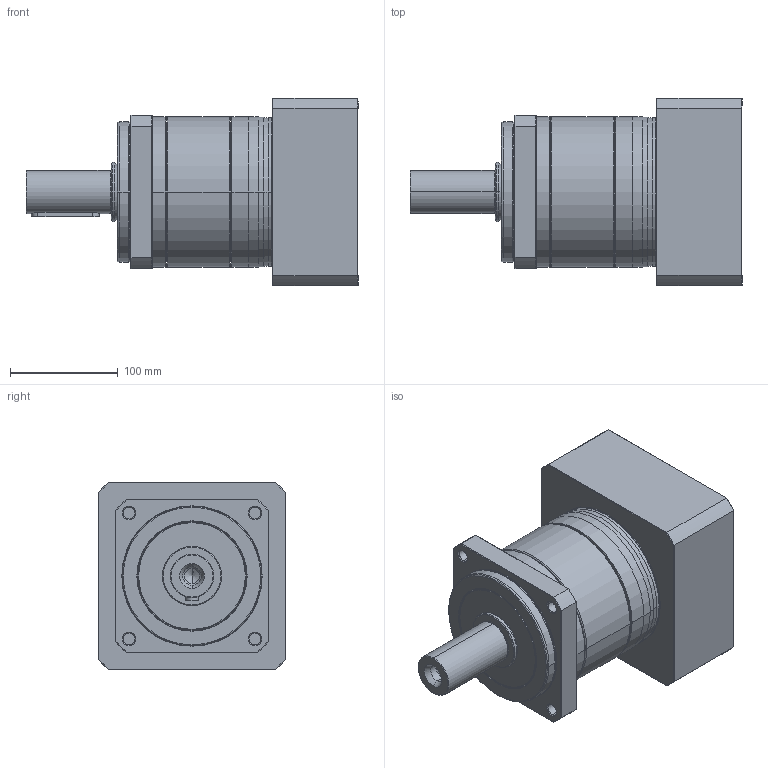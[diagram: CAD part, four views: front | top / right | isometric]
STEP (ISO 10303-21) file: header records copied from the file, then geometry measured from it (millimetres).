
FILE_DESCRIPTION((''),'2;1');
FILE_NAME('PA2-142_1ST_38-P0411900101_ASM','2016-05-06T',('d01943'),(''),'PRO/ENGINEER BY PARAMETRIC TECHNOLOGY CORPORATION, 2008410','PRO/ENGINEER BY PARAMETRIC TECHNOLOGY CORPORATION, 2008410','');
FILE_SCHEMA(('CONFIG_CONTROL_DESIGN'));
Length unit declared in the file: millimetre
Products named in the file (9): P1327510001; P0250500001; P1324500501; P0350500601; P0941505001; P0503900010; P0411900101; P1702600001; PA2-142_1ST_38-P0411900101_ASM
Assembly tree (8 placements, depth 2):
  PA2-142_1ST_38-P0411900101_ASM
    P1327510001
    P0250500001
    P1324500501
    P0350500601
    P0941505001
    P0503900010
    P0411900101
    P1702600001
Bounding box: 308 x 174 x 174 mm (x, y, z)
Volume: 3725522.4 mm3; surface area: 420091.9 mm2
Topology: 8 solids, 8 shells, 455 faces, 996 edges, 576 vertices
Faces by surface type: cone 142, cylinder 127, plane 86, torus 82, bspline 18
Entity records: 17177 total; most frequent: CARTESIAN_POINT 6941, DIRECTION 2308, ORIENTED_EDGE 1952, AXIS2_PLACEMENT_3D 983, EDGE_CURVE 976, VERTEX_POINT 576, CIRCLE 529, EDGE_LOOP 518
